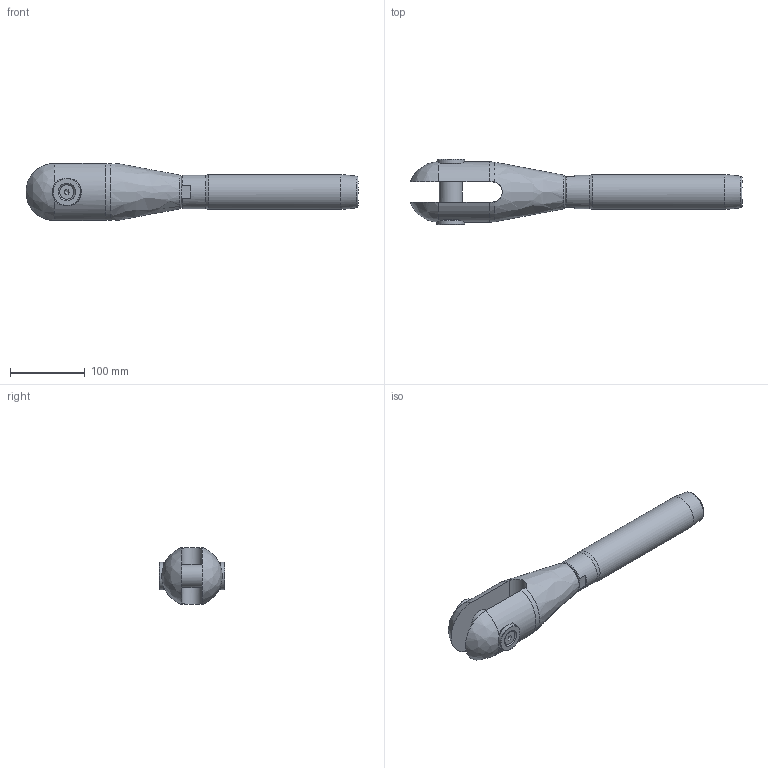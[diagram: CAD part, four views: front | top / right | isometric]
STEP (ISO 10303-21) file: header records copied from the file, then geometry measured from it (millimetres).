
FILE_DESCRIPTION(/* description */ (''),/* implementation_level */ '2;1');
FILE_NAME(/* name */ 'MAC-R 22_S355',/* time_stamp */ '2023-05-23T17:52:49+02:00',/* author */ (''),/* organization */ (''),/* preprocessor_version */ 'ST-DEVELOPER v16.5',/* originating_system */ 'Rhino 7.22',/* authorisation */ '');
FILE_SCHEMA (('CONFIG_CONTROL_DESIGN'));
Length unit declared in the file: millimetre
Products named in the file (1): Document
Bounding box: 444.62 x 87.97 x 76.37 mm (x, y, z)
Volume: 998852.3 mm3; surface area: 134203.5 mm2
Topology: 7 solids, 7 shells, 88 faces, 246 edges, 171 vertices
Faces by surface type: plane 36, bspline 28, cylinder 24
Full cylindrical faces by diameter (mm): 10 x2, 10.106 x2, 12.5 x2, 19.22 x2, 31 x1, 33 x2, 35.752 x1, 37 x2, 39 x1, 44.5 x1, 46.8 x1
Entity records: 3526 total; most frequent: CARTESIAN_POINT 1963, ORIENTED_EDGE 482, EDGE_CURVE 241, VERTEX_POINT 171, EDGE_LOOP 100, B_SPLINE_CURVE_WITH_KNOTS 97, ADVANCED_FACE 88, FACE_OUTER_BOUND 88
